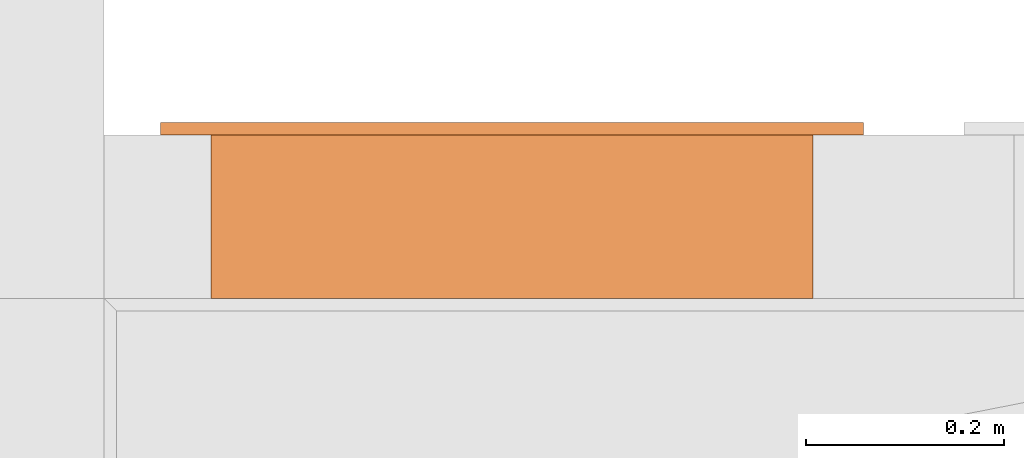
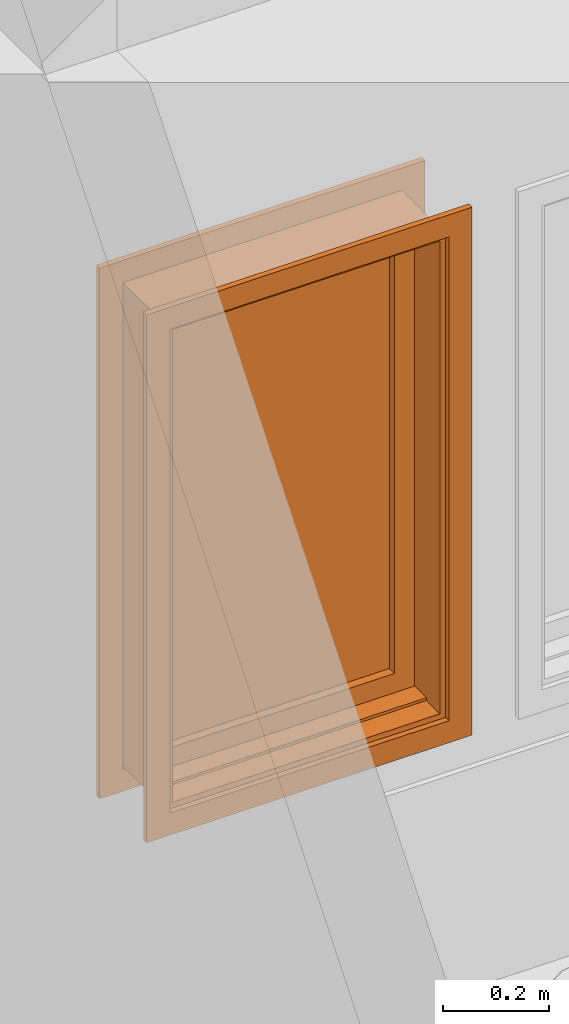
# One storey, part 62 of 103: 1 proxy.
"""IFC2X3 building model written with IfcOpenShell, lengths in inches."""

from ifc_helpers import new_model, entity, si_unit, converted_unit, derived_unit, money_unit, direction, frame, origin_with_axes, place, context, subcontext, project, spatial, faceted_brep, source, transform, mapped, type_object, element, save


model = new_model("IFC2X3")

# Units and contexts
model_context = context("Model", 3, precision=0.00039370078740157, world=origin_with_axes(), true_north=direction((0.0, 1.0)))
plan_context = context("Plan", 3, precision=0.00039370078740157, world=origin_with_axes(), true_north=direction((0.0, 1.0)))
body_context = subcontext(model_context, "Body", "Model", "MODEL_VIEW")
ifc_project = project(units=[converted_unit("LENGTHUNIT", "INCH", entity("IfcPositiveLengthMeasure", 0.0254), si_unit("LENGTHUNIT", "METRE"), dimensions=[1, 0, 0, 0, 0, 0, 0]), converted_unit("AREAUNIT", "SQUARE_FOOT", entity("IfcPositiveLengthMeasure", 0.09290304), si_unit("AREAUNIT", "SQUARE_METRE"), dimensions=[2, 0, 0, 0, 0, 0, 0]), si_unit("PLANEANGLEUNIT", "RADIAN"), si_unit("SOLIDANGLEUNIT", "STERADIAN"), money_unit("USD"), converted_unit("TIMEUNIT", "Year", entity("IfcTimeMeasure", 31557600.0), si_unit("TIMEUNIT", "SECOND"), dimensions=[0, 0, 1, 0, 0, 0, 0]), si_unit("MASSUNIT", "GRAM", prefix="KILO"), si_unit("THERMODYNAMICTEMPERATUREUNIT", "DEGREE_CELSIUS"), si_unit("LUMINOUSINTENSITYUNIT", "LUMEN"), si_unit("ENERGYUNIT", "JOULE", prefix="MEGA"), derived_unit("SPECIFICHEATCAPACITYUNIT", [(si_unit("ENERGYUNIT", "JOULE"), 1), (si_unit("MASSUNIT", "GRAM", prefix="KILO"), -1), (si_unit("THERMODYNAMICTEMPERATUREUNIT", "KELVIN"), -1)])], contexts=[model_context, plan_context])

# Site, building, storey
site_placement = place(None, origin_with_axes())
site = spatial("IfcSite", under=ifc_project, at=site_placement, Name="Site", CompositionType="ELEMENT")
building_placement = place(site_placement, origin_with_axes())
building = spatial("IfcBuilding", under=site, at=building_placement, Name="Building", CompositionType="ELEMENT")
storey_placement = place(building_placement, frame((0.0, 0.0, 127.9999999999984), z_axis=(0.0, 0.0, 1.0), x_axis=(1.0, 0.0, 0.0)))
storey = spatial("IfcBuildingStorey", under=building, at=storey_placement, Name="Second Floor", CompositionType="ELEMENT", Elevation=128.0)

# Proxy
building_element_proxy_type = type_object("IfcBuildingElementProxyType", Name="W Fixed", PredefinedType="NOTDEFINED")
shared_shape = source(origin_with_axes(), body_context, "Body", "Brep", [
    faceted_brep([(-11.99999999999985, -4.499999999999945, 0.0), (11.99999999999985, -4.499999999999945, 0.0), (11.99999999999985, -6.49999999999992, 0.0), (-11.99999999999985, -6.49999999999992, 0.0), (-11.99999999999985, -4.49999999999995, 43.99999999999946), (11.99999999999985, -4.49999999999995, 43.99999999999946), (-11.49999999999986, -4.499999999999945, 0.4999999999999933), (11.49999999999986, -4.499999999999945, 0.4999999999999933), (11.49999999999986, -4.49999999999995, 43.49999999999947), (-11.49999999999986, -4.49999999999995, 43.49999999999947), (11.99999999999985, -6.499999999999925, 43.99999999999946), (-11.99999999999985, -6.499999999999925, 43.99999999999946), (-11.49999999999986, -6.49999999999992, 0.4999999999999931), (-11.49999999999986, -6.499999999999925, 43.49999999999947), (11.49999999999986, -6.499999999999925, 43.49999999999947), (11.49999999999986, -6.49999999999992, 0.4999999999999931)], [[[0, 1, 2, 3]], [[0, 4, 5, 1], [6, 7, 8, 9]], [[1, 5, 10, 2]], [[3, 2, 10, 11], [12, 13, 14, 15]], [[4, 0, 3, 11]], [[5, 4, 11, 10]], [[7, 6, 12, 15]], [[8, 7, 15, 14]], [[9, 8, 14, 13]], [[6, 9, 13, 12]]]),
    faceted_brep([(-13.99999999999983, -6.999999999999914, -1.999999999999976), (-13.99999999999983, -6.499999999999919, -1.999999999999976), (-11.99999999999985, -6.49999999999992, 0.0), (-11.99999999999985, -6.999999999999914, 0.0), (-13.99999999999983, -6.999999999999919, 45.99999999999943), (-13.99999999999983, -6.499999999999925, 45.99999999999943), (-11.99999999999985, -6.499999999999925, 43.99999999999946), (-11.99999999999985, -6.999999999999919, 43.99999999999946)], [[[0, 1, 2, 3]], [[4, 5, 1, 0]], [[1, 5, 6, 2]], [[3, 2, 6, 7]], [[0, 3, 7, 4]], [[7, 6, 5, 4]]]),
    faceted_brep([(13.99999999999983, -6.999999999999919, 45.99999999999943), (13.99999999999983, -6.499999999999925, 45.99999999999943), (11.99999999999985, -6.499999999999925, 43.99999999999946), (11.99999999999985, -6.999999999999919, 43.99999999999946), (13.99999999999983, -6.999999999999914, -1.999999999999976), (13.99999999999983, -6.499999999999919, -1.999999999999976), (11.99999999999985, -6.49999999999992, 0.0), (11.99999999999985, -6.999999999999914, 0.0)], [[[0, 1, 2, 3]], [[4, 5, 1, 0]], [[1, 5, 6, 2]], [[3, 2, 6, 7]], [[0, 3, 7, 4]], [[7, 6, 5, 4]]]),
    faceted_brep([(13.99999999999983, -6.999999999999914, -1.999999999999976), (13.99999999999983, -6.499999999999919, -1.999999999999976), (11.99999999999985, -6.49999999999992, 0.0), (11.99999999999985, -6.999999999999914, 0.0), (-13.99999999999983, -6.999999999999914, -1.999999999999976), (-13.99999999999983, -6.499999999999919, -1.999999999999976), (-11.99999999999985, -6.49999999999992, 0.0), (-11.99999999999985, -6.999999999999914, 0.0)], [[[0, 1, 2, 3]], [[4, 5, 1, 0]], [[1, 5, 6, 2]], [[3, 2, 6, 7]], [[0, 3, 7, 4]], [[7, 6, 5, 4]]]),
    faceted_brep([(-13.99999999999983, -6.999999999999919, 45.99999999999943), (-13.99999999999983, -6.499999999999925, 45.99999999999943), (-11.99999999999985, -6.499999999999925, 43.99999999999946), (-11.99999999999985, -6.999999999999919, 43.99999999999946), (13.99999999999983, -6.999999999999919, 45.99999999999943), (13.99999999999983, -6.499999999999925, 45.99999999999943), (11.99999999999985, -6.499999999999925, 43.99999999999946), (11.99999999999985, -6.999999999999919, 43.99999999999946)], [[[0, 1, 2, 3]], [[4, 5, 1, 0]], [[1, 5, 6, 2]], [[3, 2, 6, 7]], [[0, 3, 7, 4]], [[7, 6, 5, 4]]]),
    faceted_brep([(-13.99999999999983, 0.4999999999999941, -2.249999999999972), (-11.99999999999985, 0.4999999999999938, -0.2499999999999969), (-11.99999999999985, 0.0, -0.249999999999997), (-13.99999999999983, 0.0, -2.249999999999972), (-13.99999999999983, 0.4999999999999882, 45.99999999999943), (-11.99999999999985, 0.4999999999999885, 43.99999999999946), (-11.99999999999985, 0.0, 43.99999999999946), (-13.99999999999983, 0.0, 45.99999999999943)], [[[0, 1, 2, 3]], [[0, 4, 5, 1]], [[1, 5, 6, 2]], [[3, 2, 6, 7]], [[4, 0, 3, 7]], [[5, 4, 7, 6]]]),
    faceted_brep([(13.99999999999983, 0.4999999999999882, 45.99999999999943), (11.99999999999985, 0.4999999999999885, 43.99999999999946), (11.99999999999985, 0.0, 43.99999999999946), (13.99999999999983, 0.0, 45.99999999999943), (13.99999999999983, 0.4999999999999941, -2.249999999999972), (11.99999999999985, 0.4999999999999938, -0.2499999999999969), (11.99999999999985, 0.0, -0.249999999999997), (13.99999999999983, 0.0, -2.249999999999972)], [[[0, 1, 2, 3]], [[0, 4, 5, 1]], [[1, 5, 6, 2]], [[3, 2, 6, 7]], [[4, 0, 3, 7]], [[5, 4, 7, 6]]]),
    faceted_brep([(13.99999999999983, 0.4999999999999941, -2.249999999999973), (11.99999999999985, 0.4999999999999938, -0.2499999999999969), (11.99999999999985, 0.0, -0.249999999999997), (13.99999999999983, 0.0, -2.249999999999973), (-13.99999999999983, 0.4999999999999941, -2.249999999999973), (-11.99999999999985, 0.4999999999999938, -0.2499999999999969), (-11.99999999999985, 0.0, -0.249999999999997), (-13.99999999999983, 0.0, -2.249999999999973)], [[[0, 1, 2, 3]], [[0, 4, 5, 1]], [[1, 5, 6, 2]], [[3, 2, 6, 7]], [[4, 0, 3, 7]], [[5, 4, 7, 6]]]),
    faceted_brep([(-13.99999999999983, 0.4999999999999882, 45.99999999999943), (-11.99999999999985, 0.4999999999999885, 43.99999999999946), (-11.99999999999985, 0.0, 43.99999999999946), (-13.99999999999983, 0.0, 45.99999999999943), (13.99999999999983, 0.4999999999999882, 45.99999999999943), (11.99999999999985, 0.4999999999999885, 43.99999999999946), (11.99999999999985, 0.0, 43.99999999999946), (13.99999999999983, 0.0, 45.99999999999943)], [[[0, 1, 2, 3]], [[0, 4, 5, 1]], [[1, 5, 6, 2]], [[3, 2, 6, 7]], [[4, 0, 3, 7]], [[5, 4, 7, 6]]]),
    faceted_brep([(-11.50039370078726, -4.499999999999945, 0.7539370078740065), (-11.50039370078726, -4.49999999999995, 43.49606299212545), (-11.99999999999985, -4.49999999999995, 43.49606299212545), (-11.99999999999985, -4.499999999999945, 0.7539370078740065), (-11.50039370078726, -2.749999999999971, 43.49606299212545), (-11.50039370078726, -2.749999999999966, 0.7539370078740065), (-11.74999999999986, -2.749999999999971, 43.49606299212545), (-11.74999999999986, 0.0, 43.49606299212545), (-11.99999999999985, 0.0, 43.49606299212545), (-11.99999999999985, 0.0, 0.7539370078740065), (-11.74999999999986, 0.0, 0.7539370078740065), (-11.74999999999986, -2.749999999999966, 0.7539370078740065)], [[[0, 1, 2, 3]], [[4, 1, 0, 5]], [[1, 4, 6, 7, 8, 2]], [[9, 3, 2, 8]], [[5, 0, 3, 9, 10, 11]], [[4, 5, 11, 6]], [[11, 10, 7, 6]], [[9, 8, 7, 10]]]),
    faceted_brep([(11.50039370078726, -2.749999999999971, 43.49606299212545), (11.50039370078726, -4.49999999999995, 43.49606299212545), (11.99999999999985, -4.49999999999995, 43.49606299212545), (11.99999999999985, 0.0, 43.49606299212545), (11.74999999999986, 0.0, 43.49606299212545), (11.74999999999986, -2.749999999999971, 43.49606299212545), (11.50039370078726, -4.499999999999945, 0.7539370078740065), (11.50039370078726, -2.749999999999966, 0.7539370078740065), (11.99999999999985, -4.499999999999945, 0.7539370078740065), (11.99999999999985, 0.0, 0.7539370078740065), (11.74999999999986, 0.0, 0.7539370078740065), (11.74999999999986, -2.749999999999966, 0.7539370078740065)], [[[0, 1, 2, 3, 4, 5]], [[6, 1, 0, 7]], [[1, 6, 8, 2]], [[3, 2, 8, 9]], [[3, 9, 10, 4]], [[11, 5, 4, 10]], [[7, 0, 5, 11]], [[6, 7, 11, 10, 9, 8]]]),
    faceted_brep([(11.50039370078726, -2.749999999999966, 0.7539370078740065), (11.50039370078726, -4.499999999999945, 0.7539370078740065), (11.99999999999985, -4.499999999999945, 0.7539370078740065), (11.99999999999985, 0.0, 0.7539370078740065), (11.74999999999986, 0.0, 0.7539370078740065), (11.74999999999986, -2.749999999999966, 0.7539370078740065), (11.50039370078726, -4.499999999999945, 0.7496062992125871), (11.50039370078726, -2.749999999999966, 0.7496062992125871), (-11.50039370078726, -4.499999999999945, 0.7496062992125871), (-11.50039370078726, -4.499999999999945, 0.7539370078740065), (-11.99999999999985, -4.499999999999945, 0.7539370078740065), (-11.99999999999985, -4.499999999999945, 0.0), (11.99999999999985, -4.499999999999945, 0.0), (11.99999999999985, 0.0, 0.0), (-11.99999999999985, 0.0, 0.0), (-11.99999999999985, 0.0, 0.7539370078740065), (-11.74999999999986, 0.0, 0.7539370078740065), (-11.74999999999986, 0.0, 0.4999999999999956), (11.74999999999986, 0.0, 0.4999999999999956), (11.74999999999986, -2.749999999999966, 0.4999999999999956), (-11.74999999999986, -2.749999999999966, 0.4999999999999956), (-11.74999999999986, -2.749999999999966, 0.7539370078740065), (-11.50039370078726, -2.749999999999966, 0.7539370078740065), (-11.50039370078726, -2.749999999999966, 0.7496062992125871)], [[[0, 1, 2, 3, 4, 5]], [[6, 1, 0, 7]], [[8, 9, 10, 11, 12, 2, 1, 6]], [[3, 2, 12, 13]], [[14, 15, 16, 17, 18, 4, 3, 13]], [[19, 5, 4, 18]], [[7, 0, 5, 19, 20, 21, 22, 23]], [[8, 6, 7, 23]], [[22, 9, 8, 23]], [[9, 22, 21, 16, 15, 10]], [[14, 11, 10, 15]], [[13, 12, 11, 14]], [[20, 17, 16, 21]], [[20, 19, 18, 17]]]),
    faceted_brep([(-11.50039370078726, -4.49999999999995, 43.49606299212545), (-11.50039370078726, -4.49999999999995, 43.50039370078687), (11.50039370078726, -4.49999999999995, 43.50039370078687), (11.50039370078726, -4.49999999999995, 43.49606299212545), (11.99999999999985, -4.49999999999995, 43.49606299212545), (11.99999999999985, -4.49999999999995, 43.99999999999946), (-11.99999999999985, -4.49999999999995, 43.99999999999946), (-11.99999999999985, -4.49999999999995, 43.49606299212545), (-11.50039370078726, -2.749999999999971, 43.49606299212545), (-11.50039370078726, -2.749999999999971, 43.50039370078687), (11.50039370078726, -2.749999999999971, 43.50039370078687), (11.50039370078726, -2.749999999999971, 43.49606299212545), (11.74999999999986, -2.749999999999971, 43.49606299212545), (11.74999999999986, 0.0, 43.49606299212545), (11.99999999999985, 0.0, 43.49606299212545), (11.99999999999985, 0.0, 43.99999999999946), (-11.99999999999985, 0.0, 43.99999999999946), (-11.99999999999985, 0.0, 43.49606299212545), (-11.74999999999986, 0.0, 43.49606299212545), (-11.74999999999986, -2.749999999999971, 43.49606299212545), (-11.74999999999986, -2.749999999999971, 43.74999999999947), (11.74999999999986, -2.749999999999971, 43.74999999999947), (11.74999999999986, 0.0, 43.74999999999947), (-11.74999999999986, 0.0, 43.74999999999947)], [[[0, 1, 2, 3, 4, 5, 6, 7]], [[1, 0, 8, 9]], [[2, 1, 9, 10]], [[3, 2, 10, 11]], [[3, 11, 12, 13, 14, 4]], [[15, 5, 4, 14]], [[16, 6, 5, 15]], [[17, 7, 6, 16]], [[8, 0, 7, 17, 18, 19]], [[9, 8, 19, 20, 21, 12, 11, 10]], [[12, 21, 22, 13]], [[13, 22, 23, 18, 17, 16, 15, 14]], [[20, 19, 18, 23]], [[21, 20, 23, 22]]]),
    faceted_brep([(-9.74999999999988, -2.749999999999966, 2.499999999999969), (-9.74999999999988, -1.874999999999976, 2.499999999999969), (-9.74999999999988, -1.874999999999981, 41.7499999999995), (-9.74999999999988, -2.749999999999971, 41.7499999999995), (-11.74999999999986, -2.749999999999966, 2.499999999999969), (-11.74999999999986, -1.874999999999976, 2.499999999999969), (-11.74999999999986, -1.874999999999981, 41.7499999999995), (-11.74999999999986, -2.749999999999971, 41.7499999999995)], [[[0, 1, 2, 3]], [[4, 5, 1, 0]], [[1, 5, 6, 2]], [[3, 2, 6, 7]], [[0, 3, 7, 4]], [[7, 6, 5, 4]]]),
    faceted_brep([(11.74999999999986, -2.749999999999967, 2.499999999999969), (11.74999999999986, -1.874999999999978, 2.499999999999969), (11.74999999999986, -1.874999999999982, 41.7499999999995), (11.74999999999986, -2.749999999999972, 41.7499999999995), (9.74999999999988, -2.749999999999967, 2.499999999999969), (9.74999999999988, -1.874999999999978, 2.499999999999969), (9.74999999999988, -1.874999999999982, 41.7499999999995), (9.74999999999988, -2.749999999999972, 41.7499999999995)], [[[0, 1, 2, 3]], [[4, 5, 1, 0]], [[1, 5, 6, 2]], [[3, 2, 6, 7]], [[0, 3, 7, 4]], [[7, 6, 5, 4]]]),
    faceted_brep([(11.74999999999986, -2.749999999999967, 0.4999999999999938), (11.74999999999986, -1.874999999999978, 0.4999999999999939), (11.74999999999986, -1.874999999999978, 2.499999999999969), (11.74999999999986, -2.749999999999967, 2.499999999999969), (-11.74999999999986, -2.749999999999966, 0.4999999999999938), (-11.74999999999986, -1.874999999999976, 0.4999999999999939), (-11.74999999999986, -1.874999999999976, 2.499999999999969), (-9.74999999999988, -1.874999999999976, 2.499999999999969), (-0.9999999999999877, -1.874999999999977, 2.499999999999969), (0.9999999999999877, -1.874999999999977, 2.499999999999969), (9.74999999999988, -1.874999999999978, 2.499999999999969), (9.74999999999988, -2.749999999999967, 2.499999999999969), (0.9999999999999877, -2.749999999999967, 2.499999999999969), (-0.9999999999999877, -2.749999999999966, 2.499999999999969), (-9.74999999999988, -2.749999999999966, 2.499999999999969), (-11.74999999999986, -2.749999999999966, 2.499999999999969)], [[[0, 1, 2, 3]], [[4, 5, 1, 0]], [[1, 5, 6, 7, 8, 9, 10, 2]], [[3, 2, 10, 11]], [[0, 3, 11, 12, 13, 14, 15, 4]], [[15, 6, 5, 4]], [[14, 7, 6, 15]], [[13, 8, 7, 14]], [[12, 9, 8, 13]], [[11, 10, 9, 12]]]),
    faceted_brep([(-11.74999999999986, -2.749999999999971, 43.74999999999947), (-11.74999999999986, -1.874999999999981, 43.74999999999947), (-11.74999999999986, -1.874999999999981, 41.7499999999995), (-11.74999999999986, -2.749999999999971, 41.7499999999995), (11.74999999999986, -2.749999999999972, 43.74999999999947), (11.74999999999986, -1.874999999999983, 43.74999999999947), (11.74999999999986, -1.874999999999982, 41.7499999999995), (9.74999999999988, -1.874999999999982, 41.7499999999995), (0.9999999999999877, -1.874999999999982, 41.7499999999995), (-0.9999999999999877, -1.874999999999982, 41.7499999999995), (-9.74999999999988, -1.874999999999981, 41.7499999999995), (-9.74999999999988, -2.749999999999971, 41.7499999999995), (-0.9999999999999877, -2.749999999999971, 41.7499999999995), (0.9999999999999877, -2.749999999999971, 41.7499999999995), (9.74999999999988, -2.749999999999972, 41.7499999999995), (11.74999999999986, -2.749999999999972, 41.7499999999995)], [[[0, 1, 2, 3]], [[4, 5, 1, 0]], [[1, 5, 6, 7, 8, 9, 10, 2]], [[3, 2, 10, 11]], [[0, 3, 11, 12, 13, 14, 15, 4]], [[15, 6, 5, 4]], [[14, 7, 6, 15]], [[13, 8, 7, 14]], [[12, 9, 8, 13]], [[11, 10, 9, 12]]]),
    faceted_brep([(-9.74999999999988, -1.874999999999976, 2.499999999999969), (-9.74999999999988, -0.9999999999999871, 2.499999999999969), (-9.74999999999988, -0.9999999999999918, 41.7499999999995), (-9.74999999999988, -1.874999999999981, 41.7499999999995), (-11.74999999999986, -1.874999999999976, 2.499999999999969), (-11.74999999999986, -0.9999999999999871, 2.499999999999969), (-11.74999999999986, -0.9999999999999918, 41.7499999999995), (-11.74999999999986, -1.874999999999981, 41.7499999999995)], [[[0, 1, 2, 3]], [[4, 5, 1, 0]], [[1, 5, 6, 2]], [[3, 2, 6, 7]], [[0, 3, 7, 4]], [[7, 6, 5, 4]]]),
    faceted_brep([(11.74999999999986, -1.874999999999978, 2.499999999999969), (11.74999999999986, -0.9999999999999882, 2.499999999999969), (11.74999999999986, -0.9999999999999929, 41.7499999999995), (11.74999999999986, -1.874999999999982, 41.7499999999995), (9.74999999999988, -1.874999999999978, 2.499999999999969), (9.74999999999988, -0.9999999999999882, 2.499999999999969), (9.74999999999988, -0.9999999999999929, 41.7499999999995), (9.74999999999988, -1.874999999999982, 41.7499999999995)], [[[0, 1, 2, 3]], [[4, 5, 1, 0]], [[1, 5, 6, 2]], [[3, 2, 6, 7]], [[0, 3, 7, 4]], [[7, 6, 5, 4]]]),
    faceted_brep([(11.74999999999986, -1.874999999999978, 0.4999999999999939), (11.74999999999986, -0.999999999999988, 0.499999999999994), (11.74999999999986, -0.9999999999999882, 2.499999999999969), (11.74999999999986, -1.874999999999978, 2.499999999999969), (-11.74999999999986, -1.874999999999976, 0.4999999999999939), (-11.74999999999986, -0.9999999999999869, 0.499999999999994), (-11.74999999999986, -0.9999999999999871, 2.499999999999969), (-9.74999999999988, -0.9999999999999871, 2.499999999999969), (-0.9999999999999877, -0.9999999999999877, 2.499999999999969), (0.9999999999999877, -0.9999999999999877, 2.499999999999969), (9.74999999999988, -0.9999999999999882, 2.499999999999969), (9.74999999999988, -1.874999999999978, 2.499999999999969), (0.9999999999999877, -1.874999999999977, 2.499999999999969), (-0.9999999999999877, -1.874999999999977, 2.499999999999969), (-9.74999999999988, -1.874999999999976, 2.499999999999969), (-11.74999999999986, -1.874999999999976, 2.499999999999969)], [[[0, 1, 2, 3]], [[4, 5, 1, 0]], [[1, 5, 6, 7, 8, 9, 10, 2]], [[3, 2, 10, 11]], [[0, 3, 11, 12, 13, 14, 15, 4]], [[15, 6, 5, 4]], [[14, 7, 6, 15]], [[13, 8, 7, 14]], [[12, 9, 8, 13]], [[11, 10, 9, 12]]]),
    faceted_brep([(-11.74999999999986, -1.874999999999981, 43.74999999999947), (-11.74999999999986, -0.9999999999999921, 43.74999999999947), (-11.74999999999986, -0.9999999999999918, 41.7499999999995), (-11.74999999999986, -1.874999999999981, 41.7499999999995), (11.74999999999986, -1.874999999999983, 43.74999999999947), (11.74999999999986, -0.9999999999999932, 43.74999999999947), (11.74999999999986, -0.9999999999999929, 41.7499999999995), (9.74999999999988, -0.9999999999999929, 41.7499999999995), (0.9999999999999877, -0.9999999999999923, 41.7499999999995), (-0.9999999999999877, -0.9999999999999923, 41.7499999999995), (-9.74999999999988, -0.9999999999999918, 41.7499999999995), (-9.74999999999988, -1.874999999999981, 41.7499999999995), (-0.9999999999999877, -1.874999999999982, 41.7499999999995), (0.9999999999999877, -1.874999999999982, 41.7499999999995), (9.74999999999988, -1.874999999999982, 41.7499999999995), (11.74999999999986, -1.874999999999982, 41.7499999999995)], [[[0, 1, 2, 3]], [[4, 5, 1, 0]], [[1, 5, 6, 7, 8, 9, 10, 2]], [[3, 2, 10, 11]], [[0, 3, 11, 12, 13, 14, 15, 4]], [[15, 6, 5, 4]], [[14, 7, 6, 15]], [[13, 8, 7, 14]], [[12, 9, 8, 13]], [[11, 10, 9, 12]]]),
    faceted_brep([(-9.74999999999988, -1.999999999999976, 2.499999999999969), (-9.74999999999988, -1.749999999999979, 2.499999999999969), (9.74999999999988, -1.749999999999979, 2.499999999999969), (9.74999999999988, -1.999999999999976, 2.499999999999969), (-9.74999999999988, -1.99999999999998, 41.7499999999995), (-9.74999999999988, -1.749999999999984, 41.7499999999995), (9.74999999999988, -1.749999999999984, 41.7499999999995), (9.74999999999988, -1.99999999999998, 41.7499999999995)], [[[0, 1, 2, 3]], [[4, 5, 1, 0]], [[1, 5, 6, 2]], [[3, 2, 6, 7]], [[0, 3, 7, 4]], [[7, 6, 5, 4]]]),
])
proxy_placement = place(storey_placement, frame((-64.99999336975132, 570.0000000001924, 48.99999999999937), z_axis=(0.0, 0.0, 1.0), x_axis=(1.0, 0.0, 0.0)))
element("IfcBuildingElementProxy", 1, at=proxy_placement, inside=storey, type_object=building_element_proxy_type, Name="WD - 002", context=body_context, shape_type="MappedRepresentation", body=[
    mapped(shared_shape, transform((11.99999999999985, 6.499999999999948, 0.0))),
])

save(model, "model.ifc")
